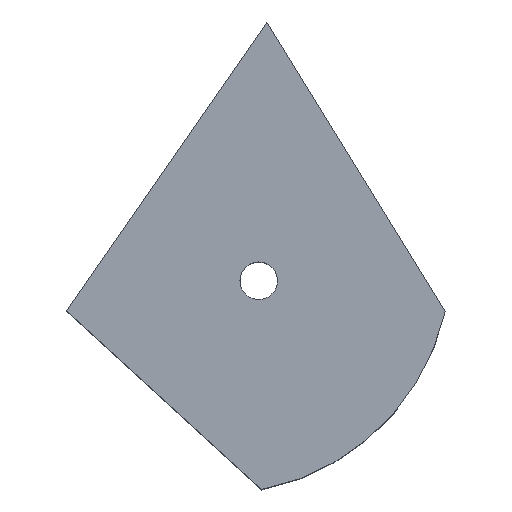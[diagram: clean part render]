
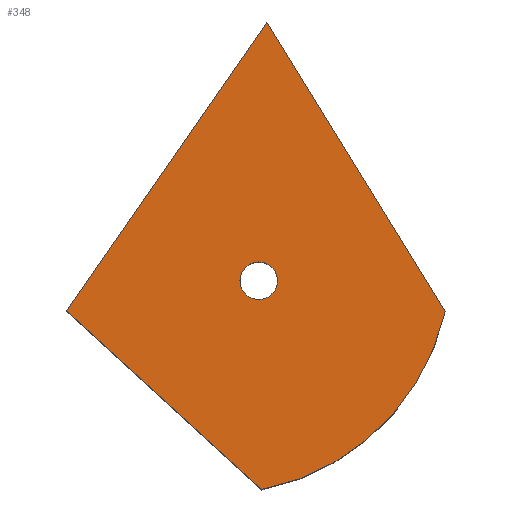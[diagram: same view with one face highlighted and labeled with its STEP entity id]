
A CAD part, top view. The second image highlights one B-rep face of the part: STEP entity #348.
In plain terms, the highlighted planar face has unit normal (0, 0, 1).
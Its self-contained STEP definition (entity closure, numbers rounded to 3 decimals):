
#24 = VERTEX_POINT('',#25);
#25 = CARTESIAN_POINT('',(21.362,-3.465,28.86));
#32 = PLANE('',#33);
#33 = AXIS2_PLACEMENT_3D('',#34,#35,#36);
#34 = CARTESIAN_POINT('',(21.362,-3.465,0.));
#35 = DIRECTION('',(-0.851,-0.525,0.));
#36 = DIRECTION('',(-0.525,0.851,0.));
#44 = CYLINDRICAL_SURFACE('',#45,26.781);
#45 = AXIS2_PLACEMENT_3D('',#46,#47,#48);
#46 = CARTESIAN_POINT('',(-4.775,2.376,0.));
#47 = DIRECTION('',(-0.,-0.,-1.));
#48 = DIRECTION('',(0.191,-0.982,0.));
#56 = EDGE_CURVE('',#24,#57,#59,.T.);
#57 = VERTEX_POINT('',#58);
#58 = CARTESIAN_POINT('',(0.941,29.63,28.86));
#59 = SURFACE_CURVE('',#60,(#64,#71),.PCURVE_S1.);
#60 = LINE('',#61,#62);
#61 = CARTESIAN_POINT('',(21.362,-3.465,28.86));
#62 = VECTOR('',#63,1.);
#63 = DIRECTION('',(-0.525,0.851,0.));
#64 = PCURVE('',#32,#65);
#65 = DEFINITIONAL_REPRESENTATION('',(#66),#70);
#66 = LINE('',#67,#68);
#67 = CARTESIAN_POINT('',(0.,-28.86));
#68 = VECTOR('',#69,1.);
#69 = DIRECTION('',(1.,0.));
#70 = ( GEOMETRIC_REPRESENTATION_CONTEXT(2) 
PARAMETRIC_REPRESENTATION_CONTEXT() REPRESENTATION_CONTEXT('2D SPACE',''
  ) );
#71 = PCURVE('',#72,#77);
#72 = PLANE('',#73);
#73 = AXIS2_PLACEMENT_3D('',#74,#75,#76);
#74 = CARTESIAN_POINT('',(0.515,1.014,28.86));
#75 = DIRECTION('',(0.,0.,1.));
#76 = DIRECTION('',(1.,0.,-0.));
#77 = DEFINITIONAL_REPRESENTATION('',(#78),#82);
#78 = LINE('',#79,#80);
#79 = CARTESIAN_POINT('',(20.846,-4.48));
#80 = VECTOR('',#81,1.);
#81 = DIRECTION('',(-0.525,0.851));
#82 = ( GEOMETRIC_REPRESENTATION_CONTEXT(2) 
PARAMETRIC_REPRESENTATION_CONTEXT() REPRESENTATION_CONTEXT('2D SPACE',''
  ) );
#100 = PLANE('',#101);
#101 = AXIS2_PLACEMENT_3D('',#102,#103,#104);
#102 = CARTESIAN_POINT('',(0.941,29.63,0.));
#103 = DIRECTION('',(0.822,-0.57,0.));
#104 = DIRECTION('',(-0.57,-0.822,0.));
#144 = VERTEX_POINT('',#145);
#145 = CARTESIAN_POINT('',(0.342,-23.911,28.86));
#159 = PLANE('',#160);
#160 = AXIS2_PLACEMENT_3D('',#161,#162,#163);
#161 = CARTESIAN_POINT('',(-21.992,-3.438,0.));
#162 = DIRECTION('',(0.676,0.737,-0.));
#163 = DIRECTION('',(0.737,-0.676,0.));
#171 = EDGE_CURVE('',#144,#24,#172,.T.);
#172 = SURFACE_CURVE('',#173,(#178,#185),.PCURVE_S1.);
#173 = CIRCLE('',#174,26.781);
#174 = AXIS2_PLACEMENT_3D('',#175,#176,#177);
#175 = CARTESIAN_POINT('',(-4.775,2.376,28.86));
#176 = DIRECTION('',(0.,0.,1.));
#177 = DIRECTION('',(0.191,-0.982,0.));
#178 = PCURVE('',#44,#179);
#179 = DEFINITIONAL_REPRESENTATION('',(#180),#184);
#180 = LINE('',#181,#182);
#181 = CARTESIAN_POINT('',(-0.,-28.86));
#182 = VECTOR('',#183,1.);
#183 = DIRECTION('',(-1.,0.));
#184 = ( GEOMETRIC_REPRESENTATION_CONTEXT(2) 
PARAMETRIC_REPRESENTATION_CONTEXT() REPRESENTATION_CONTEXT('2D SPACE',''
  ) );
#185 = PCURVE('',#72,#186);
#186 = DEFINITIONAL_REPRESENTATION('',(#187),#191);
#187 = CIRCLE('',#188,26.781);
#188 = AXIS2_PLACEMENT_2D('',#189,#190);
#189 = CARTESIAN_POINT('',(-5.29,1.362));
#190 = DIRECTION('',(0.191,-0.982));
#191 = ( GEOMETRIC_REPRESENTATION_CONTEXT(2) 
PARAMETRIC_REPRESENTATION_CONTEXT() REPRESENTATION_CONTEXT('2D SPACE',''
  ) );
#220 = EDGE_CURVE('',#57,#221,#223,.T.);
#221 = VERTEX_POINT('',#222);
#222 = CARTESIAN_POINT('',(-21.992,-3.438,28.86));
#223 = SURFACE_CURVE('',#224,(#228,#235),.PCURVE_S1.);
#224 = LINE('',#225,#226);
#225 = CARTESIAN_POINT('',(0.941,29.63,28.86));
#226 = VECTOR('',#227,1.);
#227 = DIRECTION('',(-0.57,-0.822,0.));
#228 = PCURVE('',#100,#229);
#229 = DEFINITIONAL_REPRESENTATION('',(#230),#234);
#230 = LINE('',#231,#232);
#231 = CARTESIAN_POINT('',(0.,-28.86));
#232 = VECTOR('',#233,1.);
#233 = DIRECTION('',(1.,0.));
#234 = ( GEOMETRIC_REPRESENTATION_CONTEXT(2) 
PARAMETRIC_REPRESENTATION_CONTEXT() REPRESENTATION_CONTEXT('2D SPACE',''
  ) );
#235 = PCURVE('',#72,#236);
#236 = DEFINITIONAL_REPRESENTATION('',(#237),#241);
#237 = LINE('',#238,#239);
#238 = CARTESIAN_POINT('',(0.425,28.616));
#239 = VECTOR('',#240,1.);
#240 = DIRECTION('',(-0.57,-0.822));
#241 = ( GEOMETRIC_REPRESENTATION_CONTEXT(2) 
PARAMETRIC_REPRESENTATION_CONTEXT() REPRESENTATION_CONTEXT('2D SPACE',''
  ) );
#337 = CYLINDRICAL_SURFACE('',#338,2.15);
#338 = AXIS2_PLACEMENT_3D('',#339,#340,#341);
#339 = CARTESIAN_POINT('',(0.,0.,28.86));
#340 = DIRECTION('',(0.,0.,-1.));
#341 = DIRECTION('',(-1.,0.,0.));
#348 = ADVANCED_FACE('',(#349,#375),#72,.T.);
#349 = FACE_BOUND('',#350,.T.);
#350 = EDGE_LOOP('',(#351,#352,#353,#374));
#351 = ORIENTED_EDGE('',*,*,#56,.T.);
#352 = ORIENTED_EDGE('',*,*,#220,.T.);
#353 = ORIENTED_EDGE('',*,*,#354,.T.);
#354 = EDGE_CURVE('',#221,#144,#355,.T.);
#355 = SURFACE_CURVE('',#356,(#360,#367),.PCURVE_S1.);
#356 = LINE('',#357,#358);
#357 = CARTESIAN_POINT('',(-21.992,-3.438,28.86));
#358 = VECTOR('',#359,1.);
#359 = DIRECTION('',(0.737,-0.676,0.));
#360 = PCURVE('',#72,#361);
#361 = DEFINITIONAL_REPRESENTATION('',(#362),#366);
#362 = LINE('',#363,#364);
#363 = CARTESIAN_POINT('',(-22.507,-4.453));
#364 = VECTOR('',#365,1.);
#365 = DIRECTION('',(0.737,-0.676));
#366 = ( GEOMETRIC_REPRESENTATION_CONTEXT(2) 
PARAMETRIC_REPRESENTATION_CONTEXT() REPRESENTATION_CONTEXT('2D SPACE',''
  ) );
#367 = PCURVE('',#159,#368);
#368 = DEFINITIONAL_REPRESENTATION('',(#369),#373);
#369 = LINE('',#370,#371);
#370 = CARTESIAN_POINT('',(0.,-28.86));
#371 = VECTOR('',#372,1.);
#372 = DIRECTION('',(1.,0.));
#373 = ( GEOMETRIC_REPRESENTATION_CONTEXT(2) 
PARAMETRIC_REPRESENTATION_CONTEXT() REPRESENTATION_CONTEXT('2D SPACE',''
  ) );
#374 = ORIENTED_EDGE('',*,*,#171,.T.);
#375 = FACE_BOUND('',#376,.T.);
#376 = EDGE_LOOP('',(#377));
#377 = ORIENTED_EDGE('',*,*,#378,.T.);
#378 = EDGE_CURVE('',#379,#379,#381,.T.);
#379 = VERTEX_POINT('',#380);
#380 = CARTESIAN_POINT('',(-2.15,0.,28.86));
#381 = SURFACE_CURVE('',#382,(#387,#398),.PCURVE_S1.);
#382 = CIRCLE('',#383,2.15);
#383 = AXIS2_PLACEMENT_3D('',#384,#385,#386);
#384 = CARTESIAN_POINT('',(0.,0.,28.86));
#385 = DIRECTION('',(0.,0.,-1.));
#386 = DIRECTION('',(-1.,0.,0.));
#387 = PCURVE('',#72,#388);
#388 = DEFINITIONAL_REPRESENTATION('',(#389),#397);
#389 = ( BOUNDED_CURVE() B_SPLINE_CURVE(2,(#390,#391,#392,#393,#394,#395
,#396),.UNSPECIFIED.,.T.,.F.) B_SPLINE_CURVE_WITH_KNOTS((1,2,2,2,2,1),(
    -2.094,0.,2.094,4.189,6.283,
8.378),.UNSPECIFIED.) CURVE() GEOMETRIC_REPRESENTATION_ITEM() 
RATIONAL_B_SPLINE_CURVE((1.,0.5,1.,0.5,1.,0.5,1.)) REPRESENTATION_ITEM(
  '') );
#390 = CARTESIAN_POINT('',(-2.665,-1.014));
#391 = CARTESIAN_POINT('',(-2.665,2.71));
#392 = CARTESIAN_POINT('',(0.56,0.848));
#393 = CARTESIAN_POINT('',(3.785,-1.014));
#394 = CARTESIAN_POINT('',(0.56,-2.876));
#395 = CARTESIAN_POINT('',(-2.665,-4.738));
#396 = CARTESIAN_POINT('',(-2.665,-1.014));
#397 = ( GEOMETRIC_REPRESENTATION_CONTEXT(2) 
PARAMETRIC_REPRESENTATION_CONTEXT() REPRESENTATION_CONTEXT('2D SPACE',''
  ) );
#398 = PCURVE('',#337,#399);
#399 = DEFINITIONAL_REPRESENTATION('',(#400),#404);
#400 = LINE('',#401,#402);
#401 = CARTESIAN_POINT('',(0.,0.));
#402 = VECTOR('',#403,1.);
#403 = DIRECTION('',(1.,0.));
#404 = ( GEOMETRIC_REPRESENTATION_CONTEXT(2) 
PARAMETRIC_REPRESENTATION_CONTEXT() REPRESENTATION_CONTEXT('2D SPACE',''
  ) );
